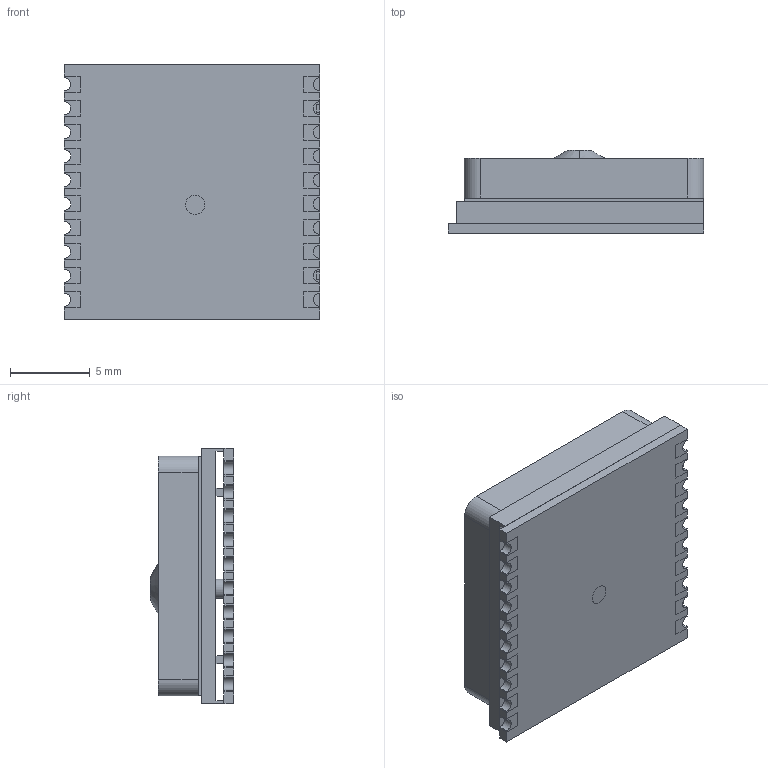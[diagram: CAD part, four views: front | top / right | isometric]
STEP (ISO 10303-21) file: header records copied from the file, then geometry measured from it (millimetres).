
FILE_DESCRIPTION (( 'STEP AP214' ), '1' );
FILE_NAME ('FGPMMOPA6H.STEP', '2021-10-28T13:34:08', ( '' ), ( '' ), 'SwSTEP 2.0', 'SolidWorks 2018', '' );
FILE_SCHEMA (( 'AUTOMOTIVE_DESIGN' ));
Length unit declared in the file: millimetre
Products named in the file (2): FGPMMOPA6H
Bounding box: 16 x 5.2 x 16 mm (x, y, z)
Volume: 984.6 mm3; surface area: 2294 mm2
Topology: 27 solids, 27 shells, 302 faces, 738 edges, 492 vertices
Faces by surface type: plane 268, cylinder 32, cone 2
Entity records: 10959 total; most frequent: CARTESIAN_POINT 1534, ORIENTED_EDGE 1476, DIRECTION 1414, EDGE_CURVE 738, LINE 670, VECTOR 670, VERTEX_POINT 492, AXIS2_PLACEMENT_3D 372
